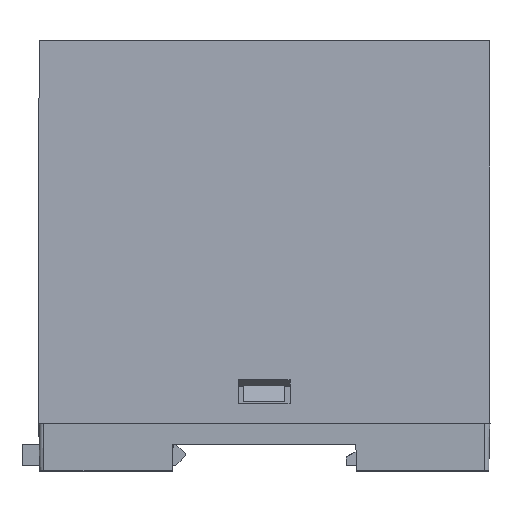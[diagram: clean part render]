
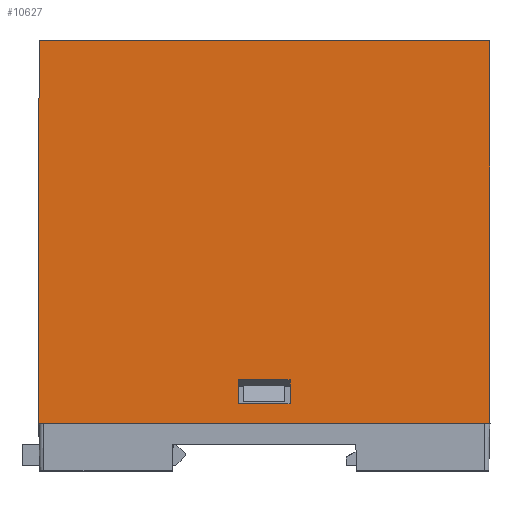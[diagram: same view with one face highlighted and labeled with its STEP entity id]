
A CAD part, top view. The second image highlights one B-rep face of the part: STEP entity #10627.
In plain terms, the highlighted planar face has unit normal (0, 0.002, 1).
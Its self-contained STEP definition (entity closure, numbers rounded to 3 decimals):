
#350 = EDGE_CURVE ( 'NONE', #8987, #9323, #5324, .T. ) ;
#522 = EDGE_CURVE ( 'NONE', #8416, #9566, #5745, .T. ) ;
#654 = LINE ( 'NONE', #1637, #3225 ) ;
#664 = DIRECTION ( 'NONE',  ( -0.002, 1., -0.002 ) ) ;
#743 = EDGE_CURVE ( 'NONE', #9566, #1295, #654, .T. ) ;
#779 = CARTESIAN_POINT ( 'NONE',  ( 4.9, 0., 17.6 ) ) ;
#784 = VERTEX_POINT ( 'NONE', #3416 ) ;
#829 = EDGE_CURVE ( 'NONE', #3509, #9323, #2494, .T. ) ;
#858 = EDGE_CURVE ( 'NONE', #8416, #4439, #9166, .T. ) ;
#916 = CARTESIAN_POINT ( 'NONE',  ( 42.75, -64.41, 17.712 ) ) ;
#1002 = ORIENTED_EDGE ( 'NONE', *, *, #522, .F. ) ;
#1295 = VERTEX_POINT ( 'NONE', #6453 ) ;
#1637 = CARTESIAN_POINT ( 'NONE',  ( -4.9, 0., 17.6 ) ) ;
#1858 = DIRECTION ( 'NONE',  ( 0., 0.002, 1. ) ) ;
#2144 = CARTESIAN_POINT ( 'NONE',  ( 42.75, -68.9, 17.72 ) ) ;
#2494 = LINE ( 'NONE', #11778, #7905 ) ;
#2625 = VECTOR ( 'NONE', #664, 1000. ) ;
#3051 = LINE ( 'NONE', #2144, #4088 ) ;
#3225 = VECTOR ( 'NONE', #9892, 1000. ) ;
#3416 = CARTESIAN_POINT ( 'NONE',  ( -42.877, -72.7, 17.727 ) ) ;
#3509 = VERTEX_POINT ( 'NONE', #11617 ) ;
#3582 = DIRECTION ( 'NONE',  ( 0.002, 1., -0.002 ) ) ;
#3663 = CARTESIAN_POINT ( 'NONE',  ( 4.9, -68.9, 17.72 ) ) ;
#3721 = EDGE_CURVE ( 'NONE', #1295, #4439, #3051, .T. ) ;
#3939 = VECTOR ( 'NONE', #3582, 1000. ) ;
#4088 = VECTOR ( 'NONE', #5866, 1000. ) ;
#4291 = ORIENTED_EDGE ( 'NONE', *, *, #3721, .F. ) ;
#4439 = VERTEX_POINT ( 'NONE', #3663 ) ;
#4794 = LINE ( 'NONE', #12057, #11525 ) ;
#5324 = LINE ( 'NONE', #6176, #2625 ) ;
#5405 = LINE ( 'NONE', #10047, #3939 ) ;
#5666 = CARTESIAN_POINT ( 'NONE',  ( 42.877, -72.7, 17.727 ) ) ;
#5745 = LINE ( 'NONE', #916, #8295 ) ;
#5866 = DIRECTION ( 'NONE',  ( 1., 0., 0. ) ) ;
#6176 = CARTESIAN_POINT ( 'NONE',  ( 42.75, 0., 17.6 ) ) ;
#6222 = DIRECTION ( 'NONE',  ( 1., 0., 0. ) ) ;
#6325 = EDGE_CURVE ( 'NONE', #784, #8987, #4794, .T. ) ;
#6453 = CARTESIAN_POINT ( 'NONE',  ( -4.9, -68.9, 17.72 ) ) ;
#6509 = FACE_OUTER_BOUND ( 'NONE', #9404, .T. ) ;
#7414 = FACE_BOUND ( 'NONE', #10964, .T. ) ;
#7905 = VECTOR ( 'NONE', #6222, 1000. ) ;
#8165 = ORIENTED_EDGE ( 'NONE', *, *, #829, .F. ) ;
#8191 = ORIENTED_EDGE ( 'NONE', *, *, #858, .T. ) ;
#8234 = DIRECTION ( 'NONE',  ( 0., -1., 0.002 ) ) ;
#8272 = DIRECTION ( 'NONE',  ( 0., -1., 0.002 ) ) ;
#8295 = VECTOR ( 'NONE', #9237, 1000. ) ;
#8416 = VERTEX_POINT ( 'NONE', #9122 ) ;
#8987 = VERTEX_POINT ( 'NONE', #5666 ) ;
#9122 = CARTESIAN_POINT ( 'NONE',  ( 4.9, -64.41, 17.712 ) ) ;
#9166 = LINE ( 'NONE', #779, #10063 ) ;
#9237 = DIRECTION ( 'NONE',  ( -1., 0., 0. ) ) ;
#9307 = EDGE_CURVE ( 'NONE', #784, #3509, #5405, .T. ) ;
#9323 = VERTEX_POINT ( 'NONE', #10963 ) ;
#9404 = EDGE_LOOP ( 'NONE', ( #8165, #11025, #10945, #10456 ) ) ;
#9522 = AXIS2_PLACEMENT_3D ( 'NONE', #10222, #1858, #8272 ) ;
#9566 = VERTEX_POINT ( 'NONE', #11676 ) ;
#9892 = DIRECTION ( 'NONE',  ( 0., -1., 0.002 ) ) ;
#10047 = CARTESIAN_POINT ( 'NONE',  ( -42.75, 0., 17.6 ) ) ;
#10063 = VECTOR ( 'NONE', #8234, 1000. ) ;
#10066 = ORIENTED_EDGE ( 'NONE', *, *, #743, .F. ) ;
#10222 = CARTESIAN_POINT ( 'NONE',  ( 42.75, 0., 17.6 ) ) ;
#10346 = DIRECTION ( 'NONE',  ( 1., 0., 0. ) ) ;
#10456 = ORIENTED_EDGE ( 'NONE', *, *, #350, .T. ) ;
#10627 = ADVANCED_FACE ( 'NONE', ( #7414, #6509 ), #11145, .T. ) ;
#10945 = ORIENTED_EDGE ( 'NONE', *, *, #6325, .T. ) ;
#10963 = CARTESIAN_POINT ( 'NONE',  ( 42.75, 0., 17.6 ) ) ;
#10964 = EDGE_LOOP ( 'NONE', ( #10066, #1002, #8191, #4291 ) ) ;
#11025 = ORIENTED_EDGE ( 'NONE', *, *, #9307, .F. ) ;
#11145 = PLANE ( 'NONE',  #9522 ) ;
#11525 = VECTOR ( 'NONE', #10346, 1000. ) ;
#11617 = CARTESIAN_POINT ( 'NONE',  ( -42.75, 0., 17.6 ) ) ;
#11676 = CARTESIAN_POINT ( 'NONE',  ( -4.9, -64.41, 17.712 ) ) ;
#11778 = CARTESIAN_POINT ( 'NONE',  ( 42.75, 0., 17.6 ) ) ;
#12057 = CARTESIAN_POINT ( 'NONE',  ( 0., -72.7, 17.727 ) ) ;
